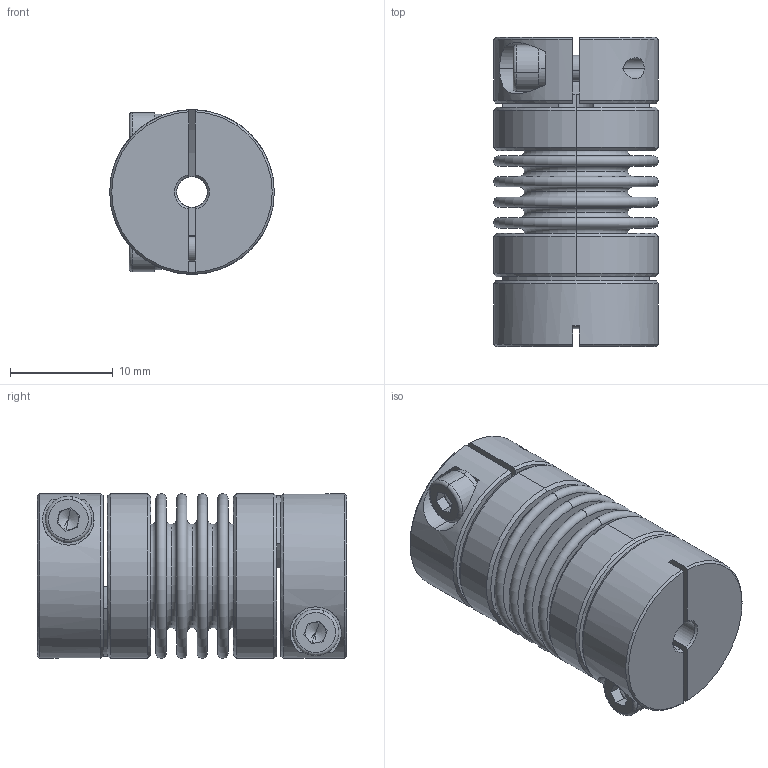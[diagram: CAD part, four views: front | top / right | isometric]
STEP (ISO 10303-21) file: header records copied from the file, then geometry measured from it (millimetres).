
FILE_DESCRIPTION (( 'STEP AP203' ), '1' );
FILE_NAME ('LB-B-D16L30-3-4.STEP', '2021-11-04T01:09:24', ( '' ), ( '' ), 'SwSTEP 2.0', 'SolidWorks 2018', '' );
FILE_SCHEMA (( 'CONFIG_CONTROL_DESIGN' ));
Length unit declared in the file: millimetre
Products named in the file (2): 零件1^LB-B-D16L30 波纹管联轴器-组装体; LB-B-D16L30-3-4
Assembly tree (1 placements, depth 2):
  LB-B-D16L30-3-4
    零件1^LB-B-D16L30 波纹管联轴器-组装体
Bounding box: 16 x 30.04 x 16 mm (x, y, z)
Volume: 3447.6 mm3; surface area: 6486.3 mm2
Topology: 1 solids, 1 shells, 254 faces, 586 edges, 362 vertices
Faces by surface type: plane 86, torus 68, cylinder 66, cone 34
Entity records: 7660 total; most frequent: CARTESIAN_POINT 1472, DIRECTION 1420, ORIENTED_EDGE 1164, AXIS2_PLACEMENT_3D 622, EDGE_CURVE 582, CIRCLE 364, VERTEX_POINT 362, EDGE_LOOP 296
